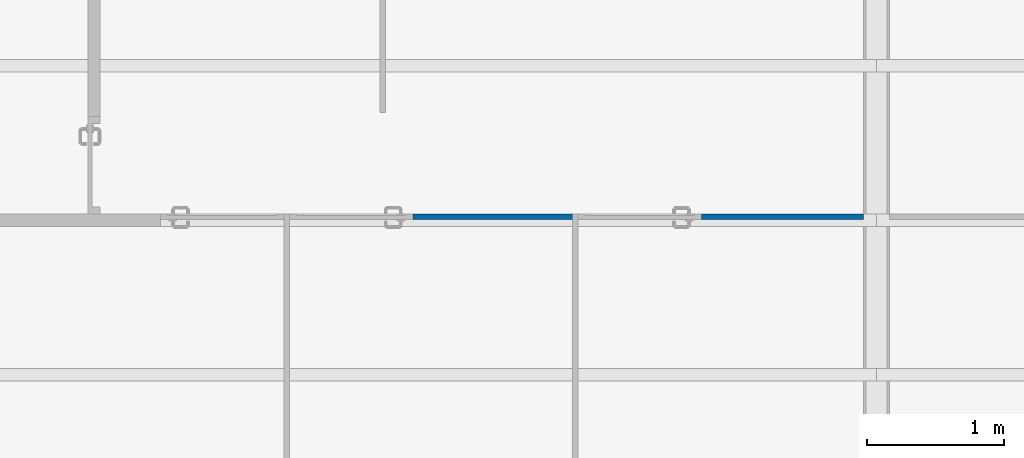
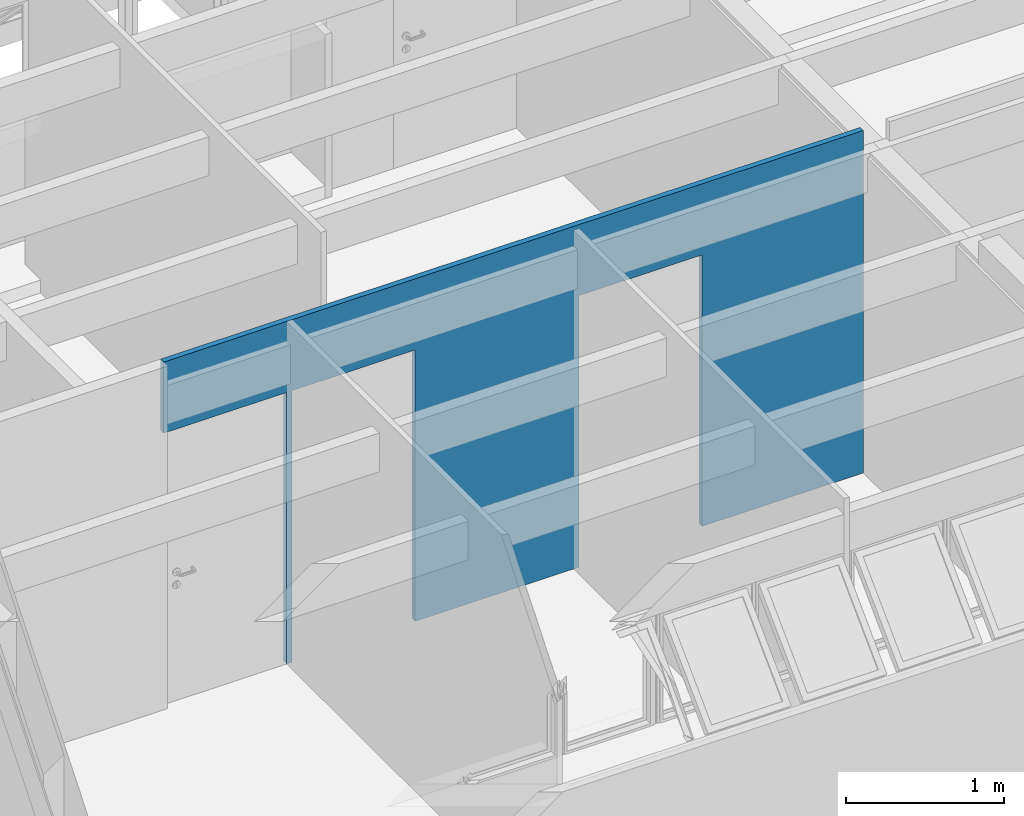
# One storey, part 5 of 38: 1 wall, 3 openings.
"""IFC2X3 building model written with IfcOpenShell, lengths in millimetres."""

from ifc_helpers import new_model, entity, si_unit, converted_unit, derived_unit, money_unit, direction, frame, origin_with_axes, origin_2d_with_axis, place, context, subcontext, project, spatial, polyline, rectangle, outline, extrude, material, layer, layer_set, layer_usage, type_object, element, save


model = new_model("IFC2X3")

# Units and contexts
model_context = context("Model", 3, precision=0.01, world=origin_with_axes(), true_north=direction((0.0, 1.0)))
body_context = subcontext(model_context, "Body", "Model", "MODEL_VIEW")
ifc_project = project(units=[si_unit("LENGTHUNIT", "METRE", prefix="MILLI"), si_unit("AREAUNIT", "SQUARE_METRE"), si_unit("VOLUMEUNIT", "CUBIC_METRE"), converted_unit("PLANEANGLEUNIT", "DEGREE", entity("IfcPlaneAngleMeasure", 0.0174532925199), si_unit("PLANEANGLEUNIT", "RADIAN"), dimensions=[0, 0, 0, 0, 0, 0, 0]), money_unit("USD"), converted_unit("TIMEUNIT", "Year", entity("IfcTimeMeasure", 31556926.0), si_unit("TIMEUNIT", "SECOND"), dimensions=[0, 0, 1, 0, 0, 0, 0]), si_unit("MASSUNIT", "GRAM", prefix="KILO"), si_unit("THERMODYNAMICTEMPERATUREUNIT", "DEGREE_CELSIUS"), si_unit("LUMINOUSINTENSITYUNIT", "LUMEN"), si_unit("ENERGYUNIT", "JOULE", prefix="MEGA"), derived_unit("THERMALCONDUCTANCEUNIT", [(si_unit("POWERUNIT", "WATT"), 1), (si_unit("LENGTHUNIT", "METRE"), -1), (si_unit("THERMODYNAMICTEMPERATUREUNIT", "KELVIN"), -1)]), derived_unit("SPECIFICHEATCAPACITYUNIT", [(si_unit("ENERGYUNIT", "JOULE"), 1), (si_unit("MASSUNIT", "GRAM", prefix="KILO"), -1), (si_unit("THERMODYNAMICTEMPERATUREUNIT", "KELVIN"), -1)]), derived_unit("MASSDENSITYUNIT", [(si_unit("MASSUNIT", "GRAM", prefix="KILO"), 1), (si_unit("VOLUMEUNIT", "CUBIC_METRE"), -1)])], contexts=[model_context])

# Site, building, storey
site_placement = place(None, origin_with_axes())
site = spatial("IfcSite", under=ifc_project, at=site_placement, Name="Local", CompositionType="ELEMENT")
building_placement = place(site_placement, origin_with_axes())
building = spatial("IfcBuilding", under=site, at=building_placement, Name="Construção", CompositionType="ELEMENT")
storey_placement = place(building_placement, frame((0.0, 0.0, 2650.0), z_axis=(0.0, 0.0, 1.0), x_axis=(1.0, 0.0, 0.0)))
storey = spatial("IfcBuildingStorey", under=building, at=storey_placement, Name="Segundo Pavimento", CompositionType="ELEMENT", Elevation=2650.0)

# Wall, openings
ifc_material = material(Name="GENÉRICO - VEDAÇÃO EXTERNA")
ifc_layer = layer(ifc_material, 40.0, ventilated="UNKNOWN")
ifc_layer_set = layer_set([ifc_layer], Name="GENÉRICO - VEDAÇÃO EXTERNA 40")
ifc_layer_usage = layer_usage(ifc_layer_set, "AXIS2", "NEGATIVE", 0.0)
wall_type = type_object("IfcWallType", Name="GENÉRICO - VEDAÇÃO EXTERNA 40", PredefinedType="NOTDEFINED")
wall_placement = place(storey_placement, frame((2170.0, 3765.2195667, 0.0), z_axis=(0.0, 0.0, 1.0), x_axis=(0.99999999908, -4.28841203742e-05, 0.0)))
wall = element("IfcWallStandardCase", 1, at=wall_placement, inside=storey, type_object=wall_type, material=ifc_layer_usage, Name="APTO5-PAREDE-006", context=body_context, shape_type="SweptSolid", body=[
    extrude(outline(polyline([(0.000857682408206, -40.0), (5120.00000471, -40.0), (5120.00000471, 0.0), (0.0, 0.0), (0.000857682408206, -40.0)])), origin_with_axes(), (0.0, 0.0, 1.0), 2650.0),
])
opening_1_placement = place(wall_placement, frame((1390.00000471, 0.0, 0.0), z_axis=(0.0, 0.0, 1.0), x_axis=(1.0, 0.0, 0.0)))
element("IfcOpeningElement", 2, at=opening_1_placement, cuts=wall, Name="APTO5-PORTA-002", context=body_context, shape_type="SweptSolid", body=[
    extrude(rectangle(XDim=900.0, YDim=2100.0, at=origin_2d_with_axis()), frame((0.0, -40.0, 1050.0), z_axis=(0.0, 1.0, 0.0), x_axis=(-1.0, 0.0, 0.0)), (0.0, 0.0, 1.0), 120.0),
])
opening_2_placement = place(wall_placement, frame((450.000004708, 0.0, 0.0), z_axis=(0.0, 0.0, 1.0), x_axis=(1.0, 0.0, 0.0)))
element("IfcOpeningElement", 3, at=opening_2_placement, cuts=wall, Name="APTO5-PORTA-001", context=body_context, shape_type="SweptSolid", body=[
    extrude(rectangle(XDim=900.0, YDim=2100.0, at=origin_2d_with_axis()), frame((0.0, -40.0, 1050.0), z_axis=(0.0, -1.0, 0.0), x_axis=(1.0, 0.0, 0.0)), (0.0, 0.0, -1.0), 120.0),
])
opening_3_placement = place(wall_placement, frame((3490.00000471, 0.0, 0.0), z_axis=(0.0, 0.0, 1.0), x_axis=(1.0, 0.0, 0.0)))
element("IfcOpeningElement", 4, at=opening_3_placement, cuts=wall, Name="APTO5-PORTA-000", context=body_context, shape_type="SweptSolid", body=[
    extrude(rectangle(XDim=900.0, YDim=2100.0, at=origin_2d_with_axis()), frame((0.0, -40.0, 1050.0), z_axis=(0.0, 1.0, 0.0), x_axis=(-1.0, 0.0, 0.0)), (0.0, 0.0, 1.0), 120.0),
])

save(model, "model.ifc")
